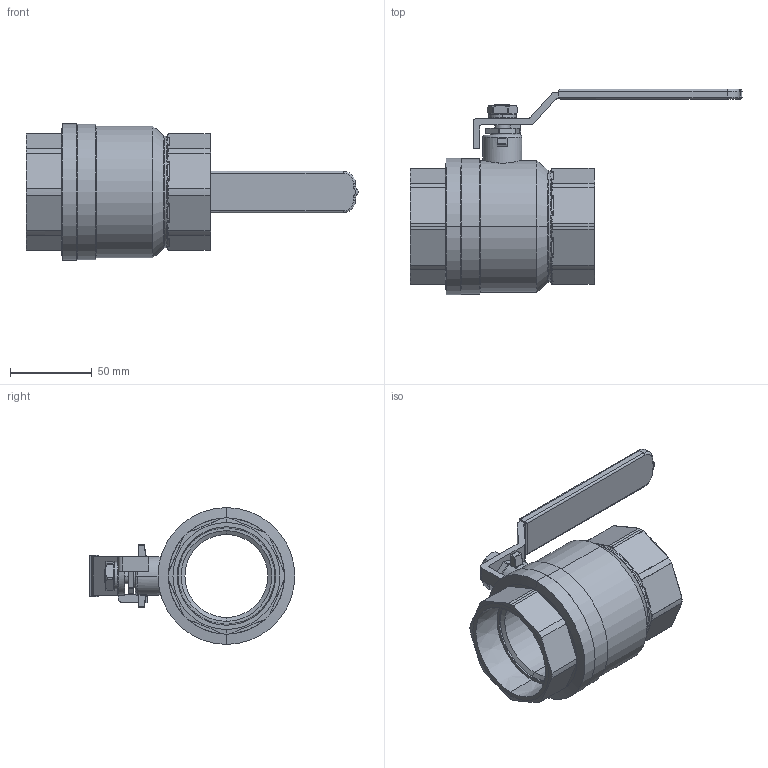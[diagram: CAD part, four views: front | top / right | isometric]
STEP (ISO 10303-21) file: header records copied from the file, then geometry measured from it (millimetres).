
FILE_DESCRIPTION (( 'STEP AP203' ), '1' );
FILE_NAME ('BGF-16.STEP', '2019-01-15T18:12:56', ( '' ), ( '' ), 'SwSTEP 2.0', 'SolidWorks 2017', '' );
FILE_SCHEMA (( 'CONFIG_CONTROL_DESIGN' ));
Length unit declared in the file: inch
Products named in the file (2): BGF-16
Bounding box: 203.4 x 125.98 x 83.82 mm (x, y, z)
Volume: 285779 mm3; surface area: 65532 mm2
Topology: 2 solids, 2 shells, 525 faces, 1286 edges, 748 vertices
Faces by surface type: cylinder 163, bspline 134, plane 99, torus 46, cone 43, sphere 40
Entity records: 30326 total; most frequent: CARTESIAN_POINT 19080, ORIENTED_EDGE 2516, DIRECTION 2125, EDGE_CURVE 1258, AXIS2_PLACEMENT_3D 860, VERTEX_POINT 748, EDGE_LOOP 542, FACE_OUTER_BOUND 525
